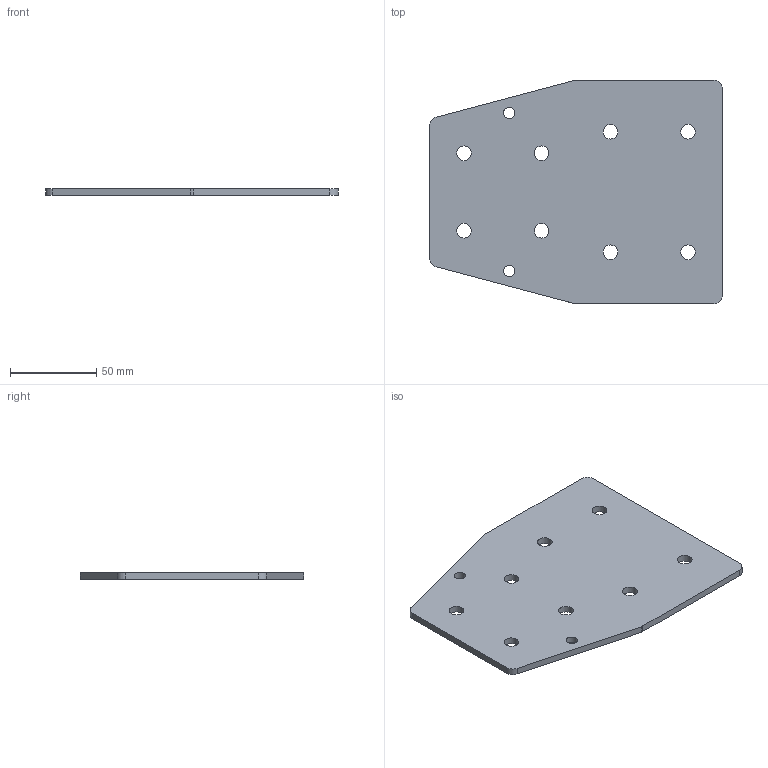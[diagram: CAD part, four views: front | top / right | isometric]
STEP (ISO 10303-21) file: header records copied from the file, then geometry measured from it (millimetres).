
FILE_DESCRIPTION(('STEP AP203'), '1');
FILE_NAME('À00804.34590 _ Ò-ñîåäèíèòåëü', '', ('UNSPECIFIED'), ('UNSPECIFIED'), 'C3D Converter', 'C3D Toolkit', '');
FILE_SCHEMA(('CONFIG_CONTROL_DESIGN'));
Length unit declared in the file: millimetre
Products named in the file (1): А00804.34590
Bounding box: 170 x 130 x 4 mm (x, y, z)
Volume: 78602.9 mm3; surface area: 42536.4 mm2
Topology: 1 solids, 1 shells, 24 faces, 66 edges, 44 vertices
Faces by surface type: cylinder 16, plane 8
Full cylindrical faces by diameter (mm): 6.5 x2, 8.5 x8
Entity records: 999 total; most frequent: DIRECTION 138, CARTESIAN_POINT 125, ORIENTED_EDGE 112, AXIS2_PLACEMENT_3D 57, EDGE_CURVE 56, EDGE_LOOP 54, VERTEX_POINT 44, FACE_BOUND 34
